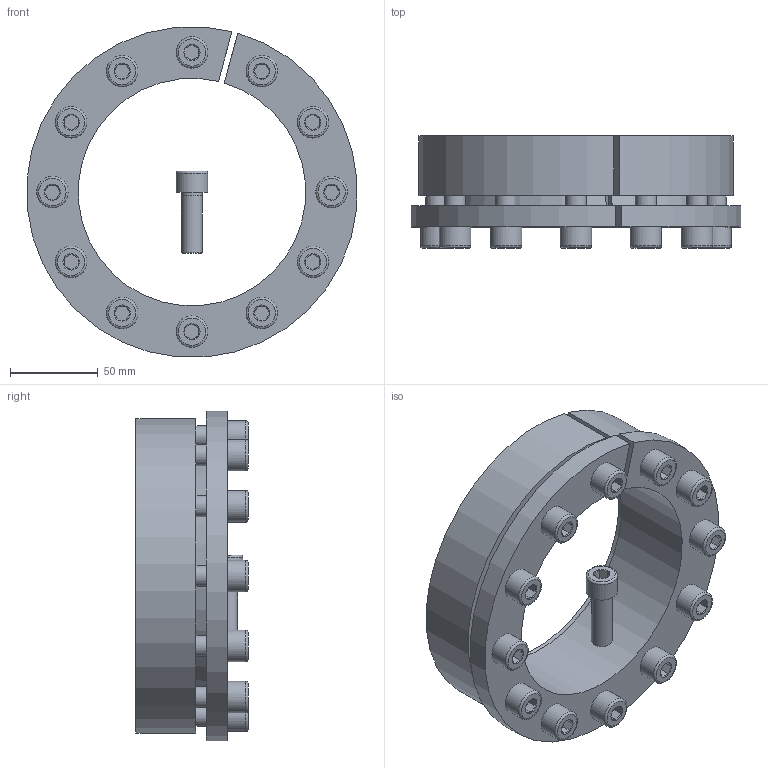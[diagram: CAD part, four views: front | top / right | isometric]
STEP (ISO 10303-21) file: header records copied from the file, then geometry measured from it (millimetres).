
FILE_DESCRIPTION( ( 'Unknown' ), '1' );
FILE_NAME( 'C:/Dokumente und Einstellungen/Sven/Desktop/homepage/cad - homepage/KBS16/KBS 16 - 130 x 180.stp', 'Unknown', ( 'Unknown' ), ( 'Unknown' ), 'XStep 1.0', 'Unknown', ' ' );
FILE_SCHEMA( ( 'automotive_design' ) );
Length unit declared in the file: millimetre
Products named in the file (3): Assem1; KBS 16 - 130 x 180; ISO EN DIN 4762 M12x35
Bounding box: 188.43 x 64 x 188.43 mm (x, y, z)
Volume: 1173372.5 mm3; surface area: 264815.9 mm2
Topology: 15 solids, 15 shells, 397 faces, 785 edges, 470 vertices
Faces by surface type: plane 170, cylinder 106, cone 95, torus 26
Full cylindrical faces by diameter (mm): 11 x13, 12 x74, 18 x13
Entity records: 2158 total; most frequent: CARTESIAN_POINT 337, DIRECTION 328, ORIENTED_EDGE 226, AXIS2_PLACEMENT_3D 150, EDGE_LOOP 144, EDGE_CURVE 113, FACE_OUTER_BOUND 91, VERTEX_POINT 91
